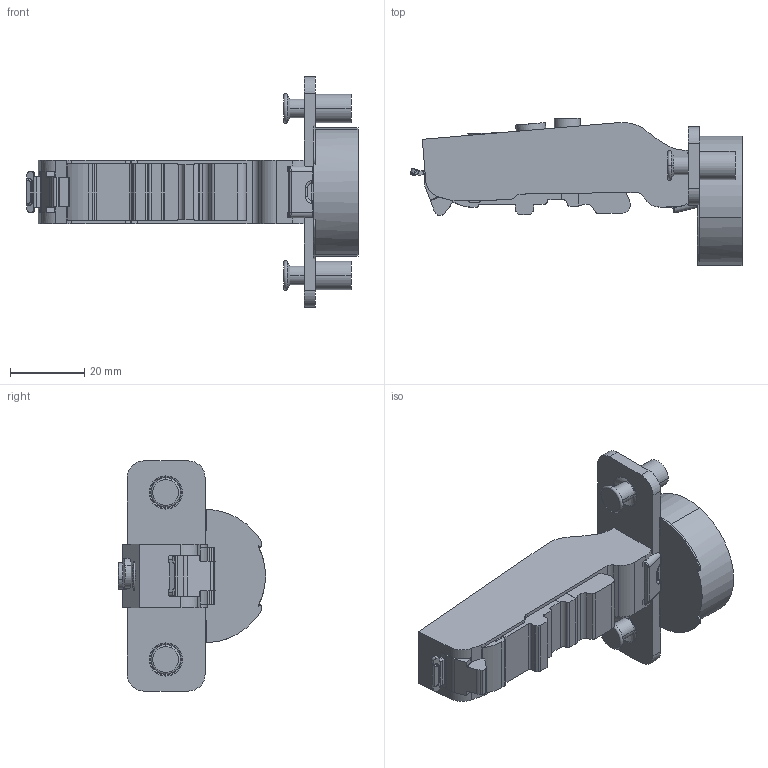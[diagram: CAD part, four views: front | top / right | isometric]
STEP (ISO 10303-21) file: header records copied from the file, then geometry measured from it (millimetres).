
FILE_DESCRIPTION (( 'STEP AP203' ), '1' );
FILE_NAME ('C81A875KFAB DTC 3D CLOSE.STEP', '2024-07-24T08:51:23', ( '微软用户' ), ( '微软中国' ), 'SwSTEP 2.0', 'SolidWorks 2021', '' );
FILE_SCHEMA (( 'CONFIG_CONTROL_DESIGN' ));
Length unit declared in the file: millimetre
Products named in the file (1): C81A875KFAB DTC 3D CLOSE
Bounding box: 89.46 x 39.64 x 62 mm (x, y, z)
Volume: 39968.1 mm3; surface area: 11975.8 mm2
Topology: 1 solids, 2 shells, 372 faces, 1075 edges, 707 vertices
Faces by surface type: plane 178, cylinder 125, bspline 33, torus 28, cone 8
Entity records: 13656 total; most frequent: CARTESIAN_POINT 3944, ORIENTED_EDGE 2150, DIRECTION 1887, EDGE_CURVE 1075, VERTEX_POINT 707, AXIS2_PLACEMENT_3D 637, VECTOR 613, LINE 613
